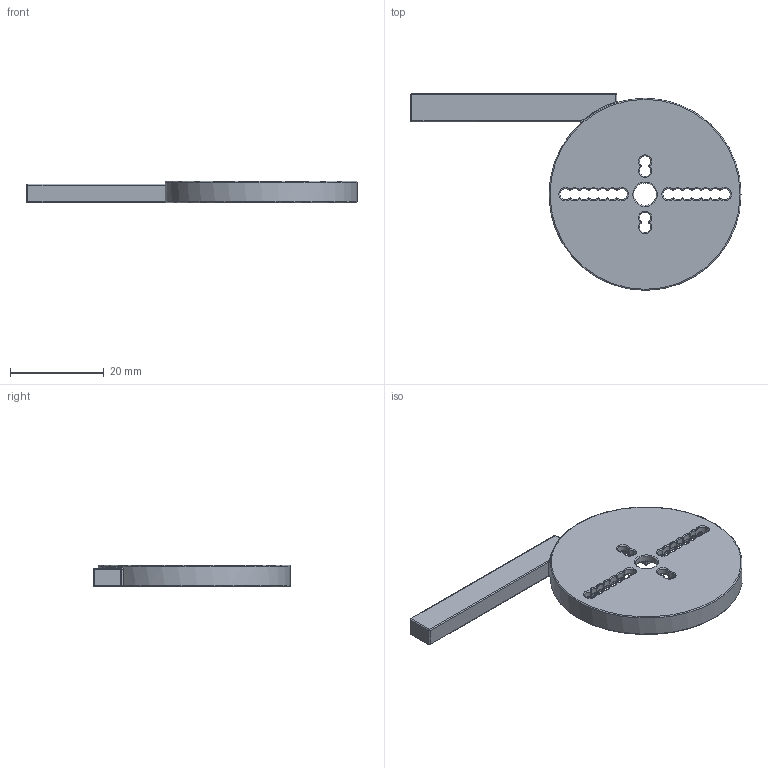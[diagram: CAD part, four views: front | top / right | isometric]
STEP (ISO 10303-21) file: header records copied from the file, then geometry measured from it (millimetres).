
FILE_DESCRIPTION(('Open CASCADE Model'),'2;1');
FILE_NAME('Open CASCADE Shape Model','2026-11-19T06:42:04',('Author'),( 'Open CASCADE'),'Open CASCADE STEP processor 8.0','Open CASCADE 8.0' ,'Unknown');
FILE_SCHEMA(('AUTOMOTIVE_DESIGN { 1 0 10303 214 1 1 1 1 }'));
Length unit declared in the file: millimetre
Products named in the file (1): Open CASCADE STEP translator 8.0 40
Bounding box: 70.5 x 42 x 4.6 mm (x, y, z)
Volume: 5515.5 mm3; surface area: 4365.8 mm2
Topology: 1 solids, 1 shells, 301 faces, 700 edges, 322 vertices
Faces by surface type: cylinder 87, torus 80, sphere 78, bspline 34, plane 22
Full cylindrical faces by diameter (mm): 4.8 x1, 41 x1
Entity records: 16665 total; most frequent: CARTESIAN_POINT 4576, DIRECTION 2220, ORIENTED_EDGE 1244, PCURVE 1244, DEFINITIONAL_REPRESENTATION 1244, LINE 756, VECTOR 756, AXIS2_PLACEMENT_3D 694
